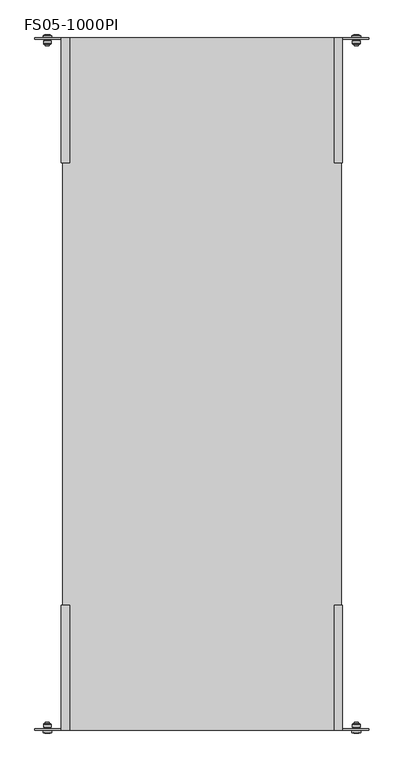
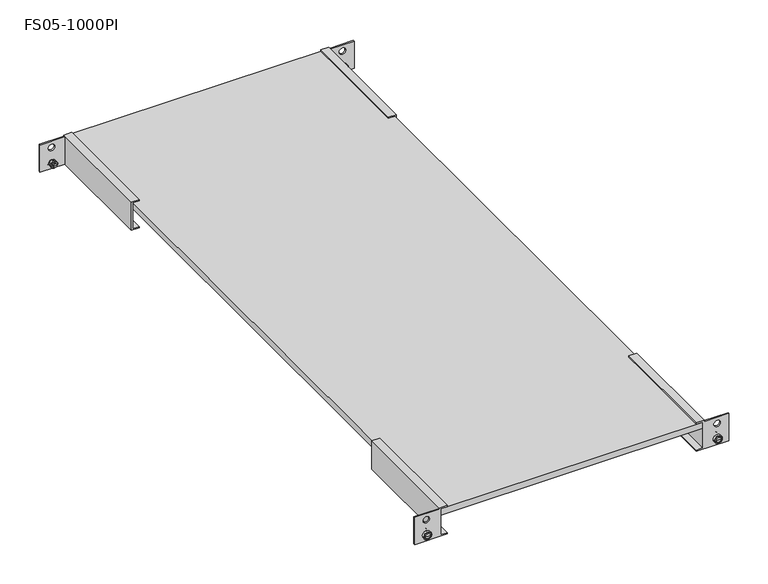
"""IFC4 building model written with IfcOpenShell, lengths in millimetres: proxy geometry, Полки стационарные универсальные : FS05-1000PI."""

from ifc_helpers import new_model, si_unit, point, frame, origin, place, context, project, spatial, polyline, circle_curve, ellipse_curve, trimmed, outline, extrude, source, transform, mapped, element, save
from ifc_brep_helpers import plane_surface, cylinder_surface, revolved_surface, advanced_brep


def fs05_1000pi_1325bcf8(model_context):
    return source(origin(), model_context, "Body", "SolidModel", [
        advanced_brep(
        [(223.4822805, 504.3499926, 10.0), (219.9883481, 504.3499926, 10.0), (226.9762128, 504.3499926, 10.0), (226.4822791, 488.7499968, 10.0), (220.4822818, 488.7499968, 10.0), (223.4822805, 488.7499968, 10.0), (226.4822791, 490.7999942, 10.0), (220.4822818, 490.7999942, 10.0), (227.9855464, 490.7999942, 10.0), (218.9790145, 490.7999942, 10.0), (228.9822767, 491.7967245, 10.0), (217.9822842, 491.7967245, 10.0), (228.9822767, 495.8, 10.0), (217.9822842, 495.8, 10.0), (227.6556322, 498.0, 10.0), (219.3089288, 498.0, 10.0), (227.6556322, 500.0, 10.0), (219.3089288, 500.0, 10.0), (229.732282, 500.0, 10.0), (217.232279, 500.0, 10.0), (229.732282, 503.5000006, 10.0), (217.232279, 503.5000006, 10.0), (228.8604456, 503.5000006, 10.0), (218.1041154, 503.5000006, 10.0)],
        [
            (0, 1),
            (1, 2, circle_curve(frame((223.4822805, 504.3499926, 10.0), z_axis=(0.0, 1.0, 0.0), x_axis=(-1.0, 0.0, 0.0)), 3.4939324)),
            (2, 0),
            (2, 1, circle_curve(frame((223.4822805, 504.3499926, 10.0), z_axis=(0.0, 1.0, 0.0), x_axis=(-1.0, 0.0, 0.0)), 3.4939324)),
            (3, 4, circle_curve(frame((223.4822805, 488.7499968, 10.0), z_axis=(0.0, -1.0, 0.0), x_axis=(-1.0, 0.0, 0.0)), 2.9999986)),
            (4, 5),
            (5, 3),
            (4, 3, circle_curve(frame((223.4822805, 488.7499968, 10.0), z_axis=(0.0, -1.0, 0.0), x_axis=(-1.0, 0.0, 0.0)), 2.9999986)),
            (6, 7, circle_curve(frame((223.4822805, 490.7999942, 10.0), z_axis=(0.0, -1.0, 0.0), x_axis=(-1.0, 0.0, 0.0)), 2.9999986)),
            (7, 4),
            (3, 6),
            (7, 6, circle_curve(frame((223.4822805, 490.7999942, 10.0), z_axis=(0.0, -1.0, 0.0), x_axis=(-1.0, 0.0, 0.0)), 2.9999986)),
            (8, 9, circle_curve(frame((223.4822805, 490.7999942, 10.0), z_axis=(0.0, -1.0, 0.0), x_axis=(-1.0, 0.0, 0.0)), 4.503266)),
            (9, 7),
            (6, 8),
            (9, 8, circle_curve(frame((223.4822805, 490.7999942, 10.0), z_axis=(0.0, -1.0, 0.0), x_axis=(-1.0, 0.0, 0.0)), 4.503266)),
            (10, 11, circle_curve(frame((223.4822805, 491.7967245, 10.0), z_axis=(0.0, -1.0, 0.0), x_axis=(-1.0, 0.0, 0.0)), 5.4999962)),
            (11, 9, circle_curve(frame((218.9790145, 491.7967245, 10.0), z_axis=(0.0, 0.0, 1.0), x_axis=(1.0, 0.0, 0.0)), 0.9967303)),
            (8, 10, circle_curve(frame((227.9855464, 491.7967245, 10.0), z_axis=(0.0, 0.0, 1.0), x_axis=(-1.0, 0.0, 0.0)), 0.9967303)),
            (11, 10, circle_curve(frame((223.4822805, 491.7967245, 10.0), z_axis=(0.0, -1.0, 0.0), x_axis=(-1.0, 0.0, 0.0)), 5.4999962)),
            (12, 13, circle_curve(frame((223.4822805, 495.8, 10.0), z_axis=(0.0, -1.0, 0.0), x_axis=(-1.0, 0.0, 0.0)), 5.4999962)),
            (13, 11),
            (10, 12),
            (13, 12, circle_curve(frame((223.4822805, 495.8, 10.0), z_axis=(0.0, -1.0, 0.0), x_axis=(-1.0, 0.0, 0.0)), 5.4999962)),
            (14, 15, circle_curve(frame((223.4822805, 498.0, 10.0), z_axis=(0.0, -1.0, 0.0), x_axis=(-1.0, 0.0, 0.0)), 4.1733517)),
            (15, 13, circle_curve(frame((217.9822789, 497.3, 10.0), z_axis=(0.0, 0.0, -1.0), x_axis=(1.0, 0.0, 0.0)), 1.5)),
            (12, 14, circle_curve(frame((228.9822821, 497.3, 10.0), z_axis=(0.0, 0.0, -1.0), x_axis=(-1.0, 0.0, 0.0)), 1.5)),
            (15, 14, circle_curve(frame((223.4822805, 498.0, 10.0), z_axis=(0.0, -1.0, 0.0), x_axis=(-1.0, 0.0, 0.0)), 4.1733517)),
            (16, 17, circle_curve(frame((223.4822805, 500.0, 10.0), z_axis=(0.0, -1.0, 0.0), x_axis=(-1.0, 0.0, 0.0)), 4.1733517)),
            (17, 15),
            (14, 16),
            (17, 16, circle_curve(frame((223.4822805, 500.0, 10.0), z_axis=(0.0, -1.0, 0.0), x_axis=(-1.0, 0.0, 0.0)), 4.1733517)),
            (18, 19, circle_curve(frame((223.4822805, 500.0, 10.0), z_axis=(0.0, -1.0, 0.0), x_axis=(-1.0, 0.0, 0.0)), 6.2500015)),
            (19, 17),
            (16, 18),
            (19, 18, circle_curve(frame((223.4822805, 500.0, 10.0), z_axis=(0.0, -1.0, 0.0), x_axis=(-1.0, 0.0, 0.0)), 6.2500015)),
            (20, 21, circle_curve(frame((223.4822805, 503.5000006, 10.0), z_axis=(0.0, -1.0, 0.0), x_axis=(-1.0, 0.0, 0.0)), 6.2500015)),
            (21, 19),
            (18, 20),
            (21, 20, circle_curve(frame((223.4822805, 503.5000006, 10.0), z_axis=(0.0, -1.0, 0.0), x_axis=(-1.0, 0.0, 0.0)), 6.2500015)),
            (22, 23, circle_curve(frame((223.4822805, 503.5000006, 10.0), z_axis=(0.0, -1.0, 0.0), x_axis=(-1.0, 0.0, 0.0)), 5.3781651)),
            (23, 21),
            (20, 22),
            (23, 22, circle_curve(frame((223.4822805, 503.5000006, 10.0), z_axis=(0.0, -1.0, 0.0), x_axis=(-1.0, 0.0, 0.0)), 5.3781651)),
            (1, 23, circle_curve(frame((219.9822789, 501.85, 10.0), z_axis=(0.0, 0.0, 1.0), x_axis=(1.0, 0.0, 0.0)), 2.5)),
            (22, 2, circle_curve(frame((226.9822821, 501.85, 10.0), z_axis=(0.0, 0.0, 1.0), x_axis=(-1.0, 0.0, 0.0)), 2.5)),
        ],
        [
            plane_surface(frame((223.4822805, 504.3499926, 10.0), z_axis=(0.0, 1.0, 0.0), x_axis=(-1.0, 0.0, 0.0))),
            plane_surface(frame((223.4822805, 488.7499968, 10.0), z_axis=(0.0, -1.0, 0.0), x_axis=(-1.0, 0.0, 0.0))),
            cylinder_surface(frame((223.4822805, -2109.0581012, 10.0), z_axis=(0.0, 1.0, 0.0), x_axis=(-1.0, 0.0, 0.0)), 2.9999986),
            plane_surface(frame((223.4822805, 490.7999942, 10.0), z_axis=(0.0, -1.0, 0.0), x_axis=(-1.0, 0.0, 0.0))),
            revolved_surface(trimmed(ellipse_curve(frame((218.9790145, 491.7967245, 10.0), z_axis=(0.0, 0.0, -1.0), x_axis=(1.0, 0.0, 0.0)), 0.9967303, 0.9967303), [point((218.9790145, 490.7999942, 10.0))], [point((217.9822842, 491.7967245, 10.0))], True, "CARTESIAN"), (223.4822805, -2109.0581012, 10.0), (0.0, 1.0, 0.0)),
            cylinder_surface(frame((223.4822805, -2109.0581012, 10.0), z_axis=(0.0, 1.0, 0.0), x_axis=(-1.0, 0.0, 0.0)), 5.4999962),
            revolved_surface(trimmed(ellipse_curve(frame((217.9822789, 497.3, 10.0), z_axis=(0.0, 0.0, 1.0), x_axis=(1.0, 0.0, 0.0)), 1.5, 1.5), [point((217.9822842, 495.8, 10.0))], [point((219.3089288, 498.0, 10.0))], True, "CARTESIAN"), (223.4822805, -2109.0581012, 10.0), (0.0, 1.0, 0.0)),
            cylinder_surface(frame((223.4822805, -2109.0581012, 10.0), z_axis=(0.0, 1.0, 0.0), x_axis=(-1.0, 0.0, 0.0)), 4.1733517),
            plane_surface(frame((223.4822805, 500.0, 10.0), z_axis=(0.0, -1.0, 0.0), x_axis=(-1.0, 0.0, 0.0))),
            cylinder_surface(frame((223.4822805, -2109.0581012, 10.0), z_axis=(0.0, 1.0, 0.0), x_axis=(-1.0, 0.0, 0.0)), 6.2500015),
            plane_surface(frame((223.4822805, 503.5000006, 10.0), z_axis=(0.0, 1.0, 0.0), x_axis=(-1.0, 0.0, 0.0))),
            revolved_surface(trimmed(ellipse_curve(frame((219.9822789, 501.85, 10.0), z_axis=(0.0, 0.0, -1.0), x_axis=(1.0, 0.0, 0.0)), 2.5, 2.5), [point((218.1041154, 503.5000006, 10.0))], [point((219.9883481, 504.3499926, 10.0))], True, "CARTESIAN"), (223.4822805, -2109.0581012, 10.0), (0.0, 1.0, 0.0)),
        ],
        [
            (0, [[1, 2, 3]]),
            (0, [[-3, 4, -1]]),
            (1, [[5, 6, 7]]),
            (1, [[8, -7, -6]]),
            (2, [[9, 10, -5, 11]]),
            (2, [[12, -11, -8, -10]]),
            (3, [[13, 14, -9, 15]]),
            (3, [[16, -15, -12, -14]]),
            (4, [[17, 18, -13, 19]]),
            (4, [[20, -19, -16, -18]]),
            (5, [[21, 22, -17, 23]]),
            (5, [[24, -23, -20, -22]]),
            (6, [[25, 26, -21, 27]]),
            (6, [[28, -27, -24, -26]]),
            (7, [[29, 30, -25, 31]]),
            (7, [[32, -31, -28, -30]]),
            (8, [[33, 34, -29, 35]]),
            (8, [[36, -35, -32, -34]]),
            (9, [[37, 38, -33, 39]]),
            (9, [[40, -39, -36, -38]]),
            (10, [[41, 42, -37, 43]]),
            (10, [[44, -43, -40, -42]]),
            (11, [[-2, 45, -41, 46]]),
            (11, [[-4, -46, -44, -45]]),
        ],
    ),
        advanced_brep(
        [(-223.4822805, 504.3499926, 10.0), (-226.9762128, 504.3499926, 10.0), (-219.9883481, 504.3499926, 10.0), (-220.4822818, 488.7499968, 10.0), (-226.4822791, 488.7499968, 10.0), (-223.4822805, 488.7499968, 10.0), (-220.4822818, 490.7999942, 10.0), (-226.4822791, 490.7999942, 10.0), (-218.9790145, 490.7999942, 10.0), (-227.9855464, 490.7999942, 10.0), (-217.9822842, 491.7967245, 10.0), (-228.9822767, 491.7967245, 10.0), (-217.9822842, 495.8, 10.0), (-228.9822767, 495.8, 10.0), (-219.3089288, 498.0, 10.0), (-227.6556322, 498.0, 10.0), (-219.3089288, 500.0, 10.0), (-227.6556322, 500.0, 10.0), (-217.232279, 500.0, 10.0), (-229.732282, 500.0, 10.0), (-217.232279, 503.5000006, 10.0), (-229.732282, 503.5000006, 10.0), (-218.1041154, 503.5000006, 10.0), (-228.8604456, 503.5000006, 10.0)],
        [
            (0, 1),
            (1, 2, circle_curve(frame((-223.4822805, 504.3499926, 10.0), z_axis=(0.0, 1.0, 0.0), x_axis=(-1.0, 0.0, 0.0)), 3.4939324)),
            (2, 0),
            (2, 1, circle_curve(frame((-223.4822805, 504.3499926, 10.0), z_axis=(0.0, 1.0, 0.0), x_axis=(-1.0, 0.0, 0.0)), 3.4939324)),
            (3, 4, circle_curve(frame((-223.4822805, 488.7499968, 10.0), z_axis=(0.0, -1.0, 0.0), x_axis=(-1.0, 0.0, 0.0)), 2.9999986)),
            (4, 5),
            (5, 3),
            (4, 3, circle_curve(frame((-223.4822805, 488.7499968, 10.0), z_axis=(0.0, -1.0, 0.0), x_axis=(-1.0, 0.0, 0.0)), 2.9999986)),
            (6, 7, circle_curve(frame((-223.4822805, 490.7999942, 10.0), z_axis=(0.0, -1.0, 0.0), x_axis=(-1.0, 0.0, 0.0)), 2.9999986)),
            (7, 4),
            (3, 6),
            (7, 6, circle_curve(frame((-223.4822805, 490.7999942, 10.0), z_axis=(0.0, -1.0, 0.0), x_axis=(-1.0, 0.0, 0.0)), 2.9999986)),
            (8, 9, circle_curve(frame((-223.4822805, 490.7999942, 10.0), z_axis=(0.0, -1.0, 0.0), x_axis=(-1.0, 0.0, 0.0)), 4.503266)),
            (9, 7),
            (6, 8),
            (9, 8, circle_curve(frame((-223.4822805, 490.7999942, 10.0), z_axis=(0.0, -1.0, 0.0), x_axis=(-1.0, 0.0, 0.0)), 4.503266)),
            (10, 11, circle_curve(frame((-223.4822805, 491.7967245, 10.0), z_axis=(0.0, -1.0, 0.0), x_axis=(-1.0, 0.0, 0.0)), 5.4999962)),
            (11, 9, circle_curve(frame((-227.9855464, 491.7967245, 10.0), z_axis=(0.0, 0.0, 1.0), x_axis=(1.0, 0.0, 0.0)), 0.9967303)),
            (8, 10, circle_curve(frame((-218.9790145, 491.7967245, 10.0), z_axis=(0.0, 0.0, 1.0), x_axis=(-1.0, 0.0, 0.0)), 0.9967303)),
            (11, 10, circle_curve(frame((-223.4822805, 491.7967245, 10.0), z_axis=(0.0, -1.0, 0.0), x_axis=(-1.0, 0.0, 0.0)), 5.4999962)),
            (12, 13, circle_curve(frame((-223.4822805, 495.8, 10.0), z_axis=(0.0, -1.0, 0.0), x_axis=(-1.0, 0.0, 0.0)), 5.4999962)),
            (13, 11),
            (10, 12),
            (13, 12, circle_curve(frame((-223.4822805, 495.8, 10.0), z_axis=(0.0, -1.0, 0.0), x_axis=(-1.0, 0.0, 0.0)), 5.4999962)),
            (14, 15, circle_curve(frame((-223.4822805, 498.0, 10.0), z_axis=(0.0, -1.0, 0.0), x_axis=(-1.0, 0.0, 0.0)), 4.1733517)),
            (15, 13, circle_curve(frame((-228.9822821, 497.3, 10.0), z_axis=(0.0, 0.0, -1.0), x_axis=(1.0, 0.0, 0.0)), 1.5)),
            (12, 14, circle_curve(frame((-217.9822789, 497.3, 10.0), z_axis=(0.0, 0.0, -1.0), x_axis=(-1.0, 0.0, 0.0)), 1.5)),
            (15, 14, circle_curve(frame((-223.4822805, 498.0, 10.0), z_axis=(0.0, -1.0, 0.0), x_axis=(-1.0, 0.0, 0.0)), 4.1733517)),
            (16, 17, circle_curve(frame((-223.4822805, 500.0, 10.0), z_axis=(0.0, -1.0, 0.0), x_axis=(-1.0, 0.0, 0.0)), 4.1733517)),
            (17, 15),
            (14, 16),
            (17, 16, circle_curve(frame((-223.4822805, 500.0, 10.0), z_axis=(0.0, -1.0, 0.0), x_axis=(-1.0, 0.0, 0.0)), 4.1733517)),
            (18, 19, circle_curve(frame((-223.4822805, 500.0, 10.0), z_axis=(0.0, -1.0, 0.0), x_axis=(-1.0, 0.0, 0.0)), 6.2500015)),
            (19, 17),
            (16, 18),
            (19, 18, circle_curve(frame((-223.4822805, 500.0, 10.0), z_axis=(0.0, -1.0, 0.0), x_axis=(-1.0, 0.0, 0.0)), 6.2500015)),
            (20, 21, circle_curve(frame((-223.4822805, 503.5000006, 10.0), z_axis=(0.0, -1.0, 0.0), x_axis=(-1.0, 0.0, 0.0)), 6.2500015)),
            (21, 19),
            (18, 20),
            (21, 20, circle_curve(frame((-223.4822805, 503.5000006, 10.0), z_axis=(0.0, -1.0, 0.0), x_axis=(-1.0, 0.0, 0.0)), 6.2500015)),
            (22, 23, circle_curve(frame((-223.4822805, 503.5000006, 10.0), z_axis=(0.0, -1.0, 0.0), x_axis=(-1.0, 0.0, 0.0)), 5.3781651)),
            (23, 21),
            (20, 22),
            (23, 22, circle_curve(frame((-223.4822805, 503.5000006, 10.0), z_axis=(0.0, -1.0, 0.0), x_axis=(-1.0, 0.0, 0.0)), 5.3781651)),
            (1, 23, circle_curve(frame((-226.9822821, 501.85, 10.0), z_axis=(0.0, 0.0, 1.0), x_axis=(1.0, 0.0, 0.0)), 2.5)),
            (22, 2, circle_curve(frame((-219.9822789, 501.85, 10.0), z_axis=(0.0, 0.0, 1.0), x_axis=(-1.0, 0.0, 0.0)), 2.5)),
        ],
        [
            plane_surface(frame((-223.4822805, 504.3499926, 10.0), z_axis=(0.0, 1.0, 0.0), x_axis=(-1.0, 0.0, 0.0))),
            plane_surface(frame((-223.4822805, 488.7499968, 10.0), z_axis=(0.0, -1.0, 0.0), x_axis=(-1.0, 0.0, 0.0))),
            cylinder_surface(frame((-223.4822805, -2109.0581012, 10.0), z_axis=(0.0, 1.0, 0.0), x_axis=(-1.0, 0.0, 0.0)), 2.9999986),
            plane_surface(frame((-223.4822805, 490.7999942, 10.0), z_axis=(0.0, -1.0, 0.0), x_axis=(-1.0, 0.0, 0.0))),
            revolved_surface(trimmed(ellipse_curve(frame((-227.9855464, 491.7967245, 10.0), z_axis=(0.0, 0.0, -1.0), x_axis=(1.0, 0.0, 0.0)), 0.9967303, 0.9967303), [point((-227.9855464, 490.7999942, 10.0))], [point((-228.9822767, 491.7967245, 10.0))], True, "CARTESIAN"), (-223.4822805, -2109.0581012, 10.0), (0.0, 1.0, 0.0)),
            cylinder_surface(frame((-223.4822805, -2109.0581012, 10.0), z_axis=(0.0, 1.0, 0.0), x_axis=(-1.0, 0.0, 0.0)), 5.4999962),
            revolved_surface(trimmed(ellipse_curve(frame((-228.9822821, 497.3, 10.0), z_axis=(0.0, 0.0, 1.0), x_axis=(1.0, 0.0, 0.0)), 1.5, 1.5), [point((-228.9822767, 495.8, 10.0))], [point((-227.6556322, 498.0, 10.0))], True, "CARTESIAN"), (-223.4822805, -2109.0581012, 10.0), (0.0, 1.0, 0.0)),
            cylinder_surface(frame((-223.4822805, -2109.0581012, 10.0), z_axis=(0.0, 1.0, 0.0), x_axis=(-1.0, 0.0, 0.0)), 4.1733517),
            plane_surface(frame((-223.4822805, 500.0, 10.0), z_axis=(0.0, -1.0, 0.0), x_axis=(-1.0, 0.0, 0.0))),
            cylinder_surface(frame((-223.4822805, -2109.0581012, 10.0), z_axis=(0.0, 1.0, 0.0), x_axis=(-1.0, 0.0, 0.0)), 6.2500015),
            plane_surface(frame((-223.4822805, 503.5000006, 10.0), z_axis=(0.0, 1.0, 0.0), x_axis=(-1.0, 0.0, 0.0))),
            revolved_surface(trimmed(ellipse_curve(frame((-226.9822821, 501.85, 10.0), z_axis=(0.0, 0.0, -1.0), x_axis=(1.0, 0.0, 0.0)), 2.5, 2.5), [point((-228.8604456, 503.5000006, 10.0))], [point((-226.9762128, 504.3499926, 10.0))], True, "CARTESIAN"), (-223.4822805, -2109.0581012, 10.0), (0.0, 1.0, 0.0)),
        ],
        [
            (0, [[1, 2, 3]]),
            (0, [[-3, 4, -1]]),
            (1, [[5, 6, 7]]),
            (1, [[8, -7, -6]]),
            (2, [[9, 10, -5, 11]]),
            (2, [[12, -11, -8, -10]]),
            (3, [[13, 14, -9, 15]]),
            (3, [[16, -15, -12, -14]]),
            (4, [[17, 18, -13, 19]]),
            (4, [[20, -19, -16, -18]]),
            (5, [[21, 22, -17, 23]]),
            (5, [[24, -23, -20, -22]]),
            (6, [[25, 26, -21, 27]]),
            (6, [[28, -27, -24, -26]]),
            (7, [[29, 30, -25, 31]]),
            (7, [[32, -31, -28, -30]]),
            (8, [[33, 34, -29, 35]]),
            (8, [[36, -35, -32, -34]]),
            (9, [[37, 38, -33, 39]]),
            (9, [[40, -39, -36, -38]]),
            (10, [[41, 42, -37, 43]]),
            (10, [[44, -43, -40, -42]]),
            (11, [[-2, 45, -41, 46]]),
            (11, [[-4, -46, -44, -45]]),
        ],
    ),
        advanced_brep(
        [(-223.4822805, -504.3499926, 10.0), (-219.9883481, -504.3499926, 10.0), (-226.9762128, -504.3499926, 10.0), (-226.4822791, -488.7499968, 10.0), (-220.4822818, -488.7499968, 10.0), (-223.4822805, -488.7499968, 10.0), (-226.4822791, -490.7999942, 10.0), (-220.4822818, -490.7999942, 10.0), (-227.9855464, -490.7999942, 10.0), (-218.9790145, -490.7999942, 10.0), (-228.9822767, -491.7967245, 10.0), (-217.9822842, -491.7967245, 10.0), (-228.9822767, -495.8, 10.0), (-217.9822842, -495.8, 10.0), (-227.6556322, -498.0, 10.0), (-219.3089288, -498.0, 10.0), (-227.6556322, -500.0, 10.0), (-219.3089288, -500.0, 10.0), (-229.732282, -500.0, 10.0), (-217.232279, -500.0, 10.0), (-229.732282, -503.5000006, 10.0), (-217.232279, -503.5000006, 10.0), (-228.8604456, -503.5000006, 10.0), (-218.1041154, -503.5000006, 10.0)],
        [
            (0, 1),
            (1, 2, circle_curve(frame((-223.4822805, -504.3499926, 10.0), z_axis=(0.0, -1.0, 0.0), x_axis=(1.0, 0.0, 0.0)), 3.4939324)),
            (2, 0),
            (2, 1, circle_curve(frame((-223.4822805, -504.3499926, 10.0), z_axis=(0.0, -1.0, 0.0), x_axis=(1.0, 0.0, 0.0)), 3.4939324)),
            (3, 4, circle_curve(frame((-223.4822805, -488.7499968, 10.0), z_axis=(0.0, 1.0, 0.0), x_axis=(1.0, 0.0, 0.0)), 2.9999986)),
            (4, 5),
            (5, 3),
            (4, 3, circle_curve(frame((-223.4822805, -488.7499968, 10.0), z_axis=(0.0, 1.0, 0.0), x_axis=(1.0, 0.0, 0.0)), 2.9999986)),
            (6, 7, circle_curve(frame((-223.4822805, -490.7999942, 10.0), z_axis=(0.0, 1.0, 0.0), x_axis=(1.0, 0.0, 0.0)), 2.9999986)),
            (7, 4),
            (3, 6),
            (7, 6, circle_curve(frame((-223.4822805, -490.7999942, 10.0), z_axis=(0.0, 1.0, 0.0), x_axis=(1.0, 0.0, 0.0)), 2.9999986)),
            (8, 9, circle_curve(frame((-223.4822805, -490.7999942, 10.0), z_axis=(0.0, 1.0, 0.0), x_axis=(1.0, 0.0, 0.0)), 4.503266)),
            (9, 7),
            (6, 8),
            (9, 8, circle_curve(frame((-223.4822805, -490.7999942, 10.0), z_axis=(0.0, 1.0, 0.0), x_axis=(1.0, 0.0, 0.0)), 4.503266)),
            (10, 11, circle_curve(frame((-223.4822805, -491.7967245, 10.0), z_axis=(0.0, 1.0, 0.0), x_axis=(1.0, 0.0, 0.0)), 5.4999962)),
            (11, 9, circle_curve(frame((-218.9790145, -491.7967245, 10.0), z_axis=(0.0, 0.0, 1.0), x_axis=(-1.0, 0.0, 0.0)), 0.9967303)),
            (8, 10, circle_curve(frame((-227.9855464, -491.7967245, 10.0), z_axis=(0.0, 0.0, 1.0), x_axis=(1.0, 0.0, 0.0)), 0.9967303)),
            (11, 10, circle_curve(frame((-223.4822805, -491.7967245, 10.0), z_axis=(0.0, 1.0, 0.0), x_axis=(1.0, 0.0, 0.0)), 5.4999962)),
            (12, 13, circle_curve(frame((-223.4822805, -495.8, 10.0), z_axis=(0.0, 1.0, 0.0), x_axis=(1.0, 0.0, 0.0)), 5.4999962)),
            (13, 11),
            (10, 12),
            (13, 12, circle_curve(frame((-223.4822805, -495.8, 10.0), z_axis=(0.0, 1.0, 0.0), x_axis=(1.0, 0.0, 0.0)), 5.4999962)),
            (14, 15, circle_curve(frame((-223.4822805, -498.0, 10.0), z_axis=(0.0, 1.0, 0.0), x_axis=(1.0, 0.0, 0.0)), 4.1733517)),
            (15, 13, circle_curve(frame((-217.9822789, -497.3, 10.0), z_axis=(0.0, 0.0, -1.0), x_axis=(-1.0, 0.0, 0.0)), 1.5)),
            (12, 14, circle_curve(frame((-228.9822821, -497.3, 10.0), z_axis=(0.0, 0.0, -1.0), x_axis=(1.0, 0.0, 0.0)), 1.5)),
            (15, 14, circle_curve(frame((-223.4822805, -498.0, 10.0), z_axis=(0.0, 1.0, 0.0), x_axis=(1.0, 0.0, 0.0)), 4.1733517)),
            (16, 17, circle_curve(frame((-223.4822805, -500.0, 10.0), z_axis=(0.0, 1.0, 0.0), x_axis=(1.0, 0.0, 0.0)), 4.1733517)),
            (17, 15),
            (14, 16),
            (17, 16, circle_curve(frame((-223.4822805, -500.0, 10.0), z_axis=(0.0, 1.0, 0.0), x_axis=(1.0, 0.0, 0.0)), 4.1733517)),
            (18, 19, circle_curve(frame((-223.4822805, -500.0, 10.0), z_axis=(0.0, 1.0, 0.0), x_axis=(1.0, 0.0, 0.0)), 6.2500015)),
            (19, 17),
            (16, 18),
            (19, 18, circle_curve(frame((-223.4822805, -500.0, 10.0), z_axis=(0.0, 1.0, 0.0), x_axis=(1.0, 0.0, 0.0)), 6.2500015)),
            (20, 21, circle_curve(frame((-223.4822805, -503.5000006, 10.0), z_axis=(0.0, 1.0, 0.0), x_axis=(1.0, 0.0, 0.0)), 6.2500015)),
            (21, 19),
            (18, 20),
            (21, 20, circle_curve(frame((-223.4822805, -503.5000006, 10.0), z_axis=(0.0, 1.0, 0.0), x_axis=(1.0, 0.0, 0.0)), 6.2500015)),
            (22, 23, circle_curve(frame((-223.4822805, -503.5000006, 10.0), z_axis=(0.0, 1.0, 0.0), x_axis=(1.0, 0.0, 0.0)), 5.3781651)),
            (23, 21),
            (20, 22),
            (23, 22, circle_curve(frame((-223.4822805, -503.5000006, 10.0), z_axis=(0.0, 1.0, 0.0), x_axis=(1.0, 0.0, 0.0)), 5.3781651)),
            (1, 23, circle_curve(frame((-219.9822789, -501.85, 10.0), z_axis=(0.0, 0.0, 1.0), x_axis=(-1.0, 0.0, 0.0)), 2.5)),
            (22, 2, circle_curve(frame((-226.9822821, -501.85, 10.0), z_axis=(0.0, 0.0, 1.0), x_axis=(1.0, 0.0, 0.0)), 2.5)),
        ],
        [
            plane_surface(frame((-223.4822805, -504.3499926, 10.0), z_axis=(0.0, -1.0, 0.0), x_axis=(1.0, 0.0, 0.0))),
            plane_surface(frame((-223.4822805, -488.7499968, 10.0), z_axis=(0.0, 1.0, 0.0), x_axis=(1.0, 0.0, 0.0))),
            cylinder_surface(frame((-223.4822805, 2109.0581012, 10.0), z_axis=(0.0, -1.0, 0.0), x_axis=(1.0, 0.0, 0.0)), 2.9999986),
            plane_surface(frame((-223.4822805, -490.7999942, 10.0), z_axis=(0.0, 1.0, 0.0), x_axis=(1.0, 0.0, 0.0))),
            revolved_surface(trimmed(ellipse_curve(frame((-218.9790145, -491.7967245, 10.0), z_axis=(0.0, 0.0, -1.0), x_axis=(-1.0, 0.0, 0.0)), 0.9967303, 0.9967303), [point((-218.9790145, -490.7999942, 10.0))], [point((-217.9822842, -491.7967245, 10.0))], True, "CARTESIAN"), (-223.4822805, 2109.0581012, 10.0), (0.0, -1.0, 0.0)),
            cylinder_surface(frame((-223.4822805, 2109.0581012, 10.0), z_axis=(0.0, -1.0, 0.0), x_axis=(1.0, 0.0, 0.0)), 5.4999962),
            revolved_surface(trimmed(ellipse_curve(frame((-217.9822789, -497.3, 10.0), z_axis=(0.0, 0.0, 1.0), x_axis=(-1.0, 0.0, 0.0)), 1.5, 1.5), [point((-217.9822842, -495.8, 10.0))], [point((-219.3089288, -498.0, 10.0))], True, "CARTESIAN"), (-223.4822805, 2109.0581012, 10.0), (0.0, -1.0, 0.0)),
            cylinder_surface(frame((-223.4822805, 2109.0581012, 10.0), z_axis=(0.0, -1.0, 0.0), x_axis=(1.0, 0.0, 0.0)), 4.1733517),
            plane_surface(frame((-223.4822805, -500.0, 10.0), z_axis=(0.0, 1.0, 0.0), x_axis=(1.0, 0.0, 0.0))),
            cylinder_surface(frame((-223.4822805, 2109.0581012, 10.0), z_axis=(0.0, -1.0, 0.0), x_axis=(1.0, 0.0, 0.0)), 6.2500015),
            plane_surface(frame((-223.4822805, -503.5000006, 10.0), z_axis=(0.0, -1.0, 0.0), x_axis=(1.0, 0.0, 0.0))),
            revolved_surface(trimmed(ellipse_curve(frame((-219.9822789, -501.85, 10.0), z_axis=(0.0, 0.0, -1.0), x_axis=(-1.0, 0.0, 0.0)), 2.5, 2.5), [point((-218.1041154, -503.5000006, 10.0))], [point((-219.9883481, -504.3499926, 10.0))], True, "CARTESIAN"), (-223.4822805, 2109.0581012, 10.0), (0.0, -1.0, 0.0)),
        ],
        [
            (0, [[1, 2, 3]]),
            (0, [[-3, 4, -1]]),
            (1, [[5, 6, 7]]),
            (1, [[8, -7, -6]]),
            (2, [[9, 10, -5, 11]]),
            (2, [[12, -11, -8, -10]]),
            (3, [[13, 14, -9, 15]]),
            (3, [[16, -15, -12, -14]]),
            (4, [[17, 18, -13, 19]]),
            (4, [[20, -19, -16, -18]]),
            (5, [[21, 22, -17, 23]]),
            (5, [[24, -23, -20, -22]]),
            (6, [[25, 26, -21, 27]]),
            (6, [[28, -27, -24, -26]]),
            (7, [[29, 30, -25, 31]]),
            (7, [[32, -31, -28, -30]]),
            (8, [[33, 34, -29, 35]]),
            (8, [[36, -35, -32, -34]]),
            (9, [[37, 38, -33, 39]]),
            (9, [[40, -39, -36, -38]]),
            (10, [[41, 42, -37, 43]]),
            (10, [[44, -43, -40, -42]]),
            (11, [[-2, 45, -41, 46]]),
            (11, [[-4, -46, -44, -45]]),
        ],
    ),
        advanced_brep(
        [(223.4822805, -504.3499926, 10.0), (226.9762128, -504.3499926, 10.0), (219.9883481, -504.3499926, 10.0), (220.4822818, -488.7499968, 10.0), (226.4822791, -488.7499968, 10.0), (223.4822805, -488.7499968, 10.0), (220.4822818, -490.7999942, 10.0), (226.4822791, -490.7999942, 10.0), (218.9790145, -490.7999942, 10.0), (227.9855464, -490.7999942, 10.0), (217.9822842, -491.7967245, 10.0), (228.9822767, -491.7967245, 10.0), (217.9822842, -495.8, 10.0), (228.9822767, -495.8, 10.0), (219.3089288, -498.0, 10.0), (227.6556322, -498.0, 10.0), (219.3089288, -500.0, 10.0), (227.6556322, -500.0, 10.0), (217.232279, -500.0, 10.0), (229.732282, -500.0, 10.0), (217.232279, -503.5000006, 10.0), (229.732282, -503.5000006, 10.0), (218.1041154, -503.5000006, 10.0), (228.8604456, -503.5000006, 10.0)],
        [
            (0, 1),
            (1, 2, circle_curve(frame((223.4822805, -504.3499926, 10.0), z_axis=(0.0, -1.0, 0.0), x_axis=(1.0, 0.0, 0.0)), 3.4939324)),
            (2, 0),
            (2, 1, circle_curve(frame((223.4822805, -504.3499926, 10.0), z_axis=(0.0, -1.0, 0.0), x_axis=(1.0, 0.0, 0.0)), 3.4939324)),
            (3, 4, circle_curve(frame((223.4822805, -488.7499968, 10.0), z_axis=(0.0, 1.0, 0.0), x_axis=(1.0, 0.0, 0.0)), 2.9999986)),
            (4, 5),
            (5, 3),
            (4, 3, circle_curve(frame((223.4822805, -488.7499968, 10.0), z_axis=(0.0, 1.0, 0.0), x_axis=(1.0, 0.0, 0.0)), 2.9999986)),
            (6, 7, circle_curve(frame((223.4822805, -490.7999942, 10.0), z_axis=(0.0, 1.0, 0.0), x_axis=(1.0, 0.0, 0.0)), 2.9999986)),
            (7, 4),
            (3, 6),
            (7, 6, circle_curve(frame((223.4822805, -490.7999942, 10.0), z_axis=(0.0, 1.0, 0.0), x_axis=(1.0, 0.0, 0.0)), 2.9999986)),
            (8, 9, circle_curve(frame((223.4822805, -490.7999942, 10.0), z_axis=(0.0, 1.0, 0.0), x_axis=(1.0, 0.0, 0.0)), 4.503266)),
            (9, 7),
            (6, 8),
            (9, 8, circle_curve(frame((223.4822805, -490.7999942, 10.0), z_axis=(0.0, 1.0, 0.0), x_axis=(1.0, 0.0, 0.0)), 4.503266)),
            (10, 11, circle_curve(frame((223.4822805, -491.7967245, 10.0), z_axis=(0.0, 1.0, 0.0), x_axis=(1.0, 0.0, 0.0)), 5.4999962)),
            (11, 9, circle_curve(frame((227.9855464, -491.7967245, 10.0), z_axis=(0.0, 0.0, 1.0), x_axis=(-1.0, 0.0, 0.0)), 0.9967303)),
            (8, 10, circle_curve(frame((218.9790145, -491.7967245, 10.0), z_axis=(0.0, 0.0, 1.0), x_axis=(1.0, 0.0, 0.0)), 0.9967303)),
            (11, 10, circle_curve(frame((223.4822805, -491.7967245, 10.0), z_axis=(0.0, 1.0, 0.0), x_axis=(1.0, 0.0, 0.0)), 5.4999962)),
            (12, 13, circle_curve(frame((223.4822805, -495.8, 10.0), z_axis=(0.0, 1.0, 0.0), x_axis=(1.0, 0.0, 0.0)), 5.4999962)),
            (13, 11),
            (10, 12),
            (13, 12, circle_curve(frame((223.4822805, -495.8, 10.0), z_axis=(0.0, 1.0, 0.0), x_axis=(1.0, 0.0, 0.0)), 5.4999962)),
            (14, 15, circle_curve(frame((223.4822805, -498.0, 10.0), z_axis=(0.0, 1.0, 0.0), x_axis=(1.0, 0.0, 0.0)), 4.1733517)),
            (15, 13, circle_curve(frame((228.9822821, -497.3, 10.0), z_axis=(0.0, 0.0, -1.0), x_axis=(-1.0, 0.0, 0.0)), 1.5)),
            (12, 14, circle_curve(frame((217.9822789, -497.3, 10.0), z_axis=(0.0, 0.0, -1.0), x_axis=(1.0, 0.0, 0.0)), 1.5)),
            (15, 14, circle_curve(frame((223.4822805, -498.0, 10.0), z_axis=(0.0, 1.0, 0.0), x_axis=(1.0, 0.0, 0.0)), 4.1733517)),
            (16, 17, circle_curve(frame((223.4822805, -500.0, 10.0), z_axis=(0.0, 1.0, 0.0), x_axis=(1.0, 0.0, 0.0)), 4.1733517)),
            (17, 15),
            (14, 16),
            (17, 16, circle_curve(frame((223.4822805, -500.0, 10.0), z_axis=(0.0, 1.0, 0.0), x_axis=(1.0, 0.0, 0.0)), 4.1733517)),
            (18, 19, circle_curve(frame((223.4822805, -500.0, 10.0), z_axis=(0.0, 1.0, 0.0), x_axis=(1.0, 0.0, 0.0)), 6.2500015)),
            (19, 17),
            (16, 18),
            (19, 18, circle_curve(frame((223.4822805, -500.0, 10.0), z_axis=(0.0, 1.0, 0.0), x_axis=(1.0, 0.0, 0.0)), 6.2500015)),
            (20, 21, circle_curve(frame((223.4822805, -503.5000006, 10.0), z_axis=(0.0, 1.0, 0.0), x_axis=(1.0, 0.0, 0.0)), 6.2500015)),
            (21, 19),
            (18, 20),
            (21, 20, circle_curve(frame((223.4822805, -503.5000006, 10.0), z_axis=(0.0, 1.0, 0.0), x_axis=(1.0, 0.0, 0.0)), 6.2500015)),
            (22, 23, circle_curve(frame((223.4822805, -503.5000006, 10.0), z_axis=(0.0, 1.0, 0.0), x_axis=(1.0, 0.0, 0.0)), 5.3781651)),
            (23, 21),
            (20, 22),
            (23, 22, circle_curve(frame((223.4822805, -503.5000006, 10.0), z_axis=(0.0, 1.0, 0.0), x_axis=(1.0, 0.0, 0.0)), 5.3781651)),
            (1, 23, circle_curve(frame((226.9822821, -501.85, 10.0), z_axis=(0.0, 0.0, 1.0), x_axis=(-1.0, 0.0, 0.0)), 2.5)),
            (22, 2, circle_curve(frame((219.9822789, -501.85, 10.0), z_axis=(0.0, 0.0, 1.0), x_axis=(1.0, 0.0, 0.0)), 2.5)),
        ],
        [
            plane_surface(frame((223.4822805, -504.3499926, 10.0), z_axis=(0.0, -1.0, 0.0), x_axis=(1.0, 0.0, 0.0))),
            plane_surface(frame((223.4822805, -488.7499968, 10.0), z_axis=(0.0, 1.0, 0.0), x_axis=(1.0, 0.0, 0.0))),
            cylinder_surface(frame((223.4822805, 2109.0581012, 10.0), z_axis=(0.0, -1.0, 0.0), x_axis=(1.0, 0.0, 0.0)), 2.9999986),
            plane_surface(frame((223.4822805, -490.7999942, 10.0), z_axis=(0.0, 1.0, 0.0), x_axis=(1.0, 0.0, 0.0))),
            revolved_surface(trimmed(ellipse_curve(frame((227.9855464, -491.7967245, 10.0), z_axis=(0.0, 0.0, -1.0), x_axis=(-1.0, 0.0, 0.0)), 0.9967303, 0.9967303), [point((227.9855464, -490.7999942, 10.0))], [point((228.9822767, -491.7967245, 10.0))], True, "CARTESIAN"), (223.4822805, 2109.0581012, 10.0), (0.0, -1.0, 0.0)),
            cylinder_surface(frame((223.4822805, 2109.0581012, 10.0), z_axis=(0.0, -1.0, 0.0), x_axis=(1.0, 0.0, 0.0)), 5.4999962),
            revolved_surface(trimmed(ellipse_curve(frame((228.9822821, -497.3, 10.0), z_axis=(0.0, 0.0, 1.0), x_axis=(-1.0, 0.0, 0.0)), 1.5, 1.5), [point((228.9822767, -495.8, 10.0))], [point((227.6556322, -498.0, 10.0))], True, "CARTESIAN"), (223.4822805, 2109.0581012, 10.0), (0.0, -1.0, 0.0)),
            cylinder_surface(frame((223.4822805, 2109.0581012, 10.0), z_axis=(0.0, -1.0, 0.0), x_axis=(1.0, 0.0, 0.0)), 4.1733517),
            plane_surface(frame((223.4822805, -500.0, 10.0), z_axis=(0.0, 1.0, 0.0), x_axis=(1.0, 0.0, 0.0))),
            cylinder_surface(frame((223.4822805, 2109.0581012, 10.0), z_axis=(0.0, -1.0, 0.0), x_axis=(1.0, 0.0, 0.0)), 6.2500015),
            plane_surface(frame((223.4822805, -503.5000006, 10.0), z_axis=(0.0, -1.0, 0.0), x_axis=(1.0, 0.0, 0.0))),
            revolved_surface(trimmed(ellipse_curve(frame((226.9822821, -501.85, 10.0), z_axis=(0.0, 0.0, -1.0), x_axis=(-1.0, 0.0, 0.0)), 2.5, 2.5), [point((228.8604456, -503.5000006, 10.0))], [point((226.9762128, -504.3499926, 10.0))], True, "CARTESIAN"), (223.4822805, 2109.0581012, 10.0), (0.0, -1.0, 0.0)),
        ],
        [
            (0, [[1, 2, 3]]),
            (0, [[-3, 4, -1]]),
            (1, [[5, 6, 7]]),
            (1, [[8, -7, -6]]),
            (2, [[9, 10, -5, 11]]),
            (2, [[12, -11, -8, -10]]),
            (3, [[13, 14, -9, 15]]),
            (3, [[16, -15, -12, -14]]),
            (4, [[17, 18, -13, 19]]),
            (4, [[20, -19, -16, -18]]),
            (5, [[21, 22, -17, 23]]),
            (5, [[24, -23, -20, -22]]),
            (6, [[25, 26, -21, 27]]),
            (6, [[28, -27, -24, -26]]),
            (7, [[29, 30, -25, 31]]),
            (7, [[32, -31, -28, -30]]),
            (8, [[33, 34, -29, 35]]),
            (8, [[36, -35, -32, -34]]),
            (9, [[37, 38, -33, 39]]),
            (9, [[40, -39, -36, -38]]),
            (10, [[41, 42, -37, 43]]),
            (10, [[44, -43, -40, -42]]),
            (11, [[-2, 45, -41, 46]]),
            (11, [[-4, -46, -44, -45]]),
        ],
    ),
        advanced_brep(
        [(-191.5, -500.0, 44.0), (-191.5, -500.0, 46.0), (-203.5, -500.0, 46.0), (-203.5, -500.0, 44.0), (-241.5, -500.0, 44.0), (-241.5, -500.0, 0.0), (-191.5, -500.0, 0.0), (-191.5, -500.0, 2.0), (-201.5, -500.0, 2.0), (-201.5, -500.0, 44.0), (-218.6086696, -500.0, 34.0), (-228.6086696, -500.0, 34.0), (-191.5, -320.0, 44.0), (-201.5, -320.0, 44.0), (-201.5, -320.0, 2.0), (-191.5, -320.0, 2.0), (-191.5, -320.0, 0.0), (-203.5, -320.0, 0.0), (-203.5, -320.0, 46.0), (-191.5, -320.0, 46.0), (-203.5, -498.0, 0.0), (-203.5, -498.0, 44.0), (-241.5, -498.0, 0.0), (-241.5, -498.0, 44.0), (-228.6086696, -498.0, 34.0), (-218.6086696, -498.0, 34.0)],
        [
            (0, 1),
            (1, 2),
            (2, 3),
            (3, 4),
            (4, 5),
            (5, 6),
            (6, 7),
            (7, 8),
            (8, 9),
            (9, 0),
            (10, 11, circle_curve(frame((-223.6086696, -500.0, 34.0), z_axis=(0.0, 1.0, 0.0), x_axis=(1.0, 0.0, 0.0)), 5.0)),
            (11, 10, circle_curve(frame((-223.6086696, -500.0, 34.0), z_axis=(0.0, 1.0, 0.0), x_axis=(1.0, 0.0, 0.0)), 5.0)),
            (12, 13),
            (13, 14),
            (14, 15),
            (15, 16),
            (16, 17),
            (17, 18),
            (18, 19),
            (19, 12),
            (0, 12),
            (19, 1),
            (18, 2),
            (17, 20),
            (20, 21),
            (21, 3),
            (16, 6),
            (5, 22),
            (22, 20),
            (15, 7),
            (14, 8),
            (13, 9),
            (21, 23),
            (23, 4),
            (22, 23),
            (24, 25, circle_curve(frame((-223.6086696, -498.0, 34.0), z_axis=(0.0, -1.0, 0.0), x_axis=(1.0, 0.0, 0.0)), 5.0)),
            (25, 24, circle_curve(frame((-223.6086696, -498.0, 34.0), z_axis=(0.0, -1.0, 0.0), x_axis=(1.0, 0.0, 0.0)), 5.0)),
            (24, 11),
            (10, 25),
        ],
        [
            plane_surface(frame((-191.5, -500.0, 44.0), z_axis=(0.0, -1.0, 0.0), x_axis=(0.0, 0.0, 1.0))),
            plane_surface(frame((-191.5, -320.0, 44.0), z_axis=(0.0, 1.0, 0.0), x_axis=(0.0, 0.0, -1.0))),
            plane_surface(frame((-191.5, -500.0, 44.0), z_axis=(1.0, 0.0, 0.0), x_axis=(0.0, 1.0, 0.0))),
            plane_surface(frame((-191.5, -500.0, 46.0), z_axis=(0.0, 0.0, 1.0), x_axis=(0.0, 1.0, 0.0))),
            plane_surface(frame((-203.5, -500.0, 46.0), z_axis=(-1.0, 0.0, 0.0), x_axis=(0.0, 1.0, 0.0))),
            plane_surface(frame((-203.5, -500.0, 0.0), z_axis=(0.0, 0.0, -1.0), x_axis=(0.0, 1.0, 0.0))),
            plane_surface(frame((-191.5, -500.0, 0.0), z_axis=(1.0, 0.0, 0.0), x_axis=(0.0, 1.0, 0.0))),
            plane_surface(frame((-191.5, -500.0, 2.0), z_axis=(0.0, 0.0, 1.0), x_axis=(0.0, 1.0, 0.0))),
            plane_surface(frame((-201.5, -500.0, 2.0), z_axis=(1.0, 0.0, 0.0), x_axis=(0.0, 1.0, 0.0))),
            plane_surface(frame((-201.5, -500.0, 44.0), z_axis=(0.0, 0.0, -1.0), x_axis=(0.0, 1.0, 0.0))),
            plane_surface(frame((-203.5, 498.0, 44.0), z_axis=(0.0, 0.0, 1.0), x_axis=(1.0, 0.0, 0.0))),
            plane_surface(frame((-203.5, -498.0, 44.0), z_axis=(0.0, 1.0, 0.0), x_axis=(0.0, 0.0, -1.0))),
            plane_surface(frame((-241.5, -498.0, 44.0), z_axis=(-1.0, 0.0, 0.0), x_axis=(0.0, 0.0, -1.0))),
            revolved_surface(polyline([(-218.6086696, -500.0, 34.0), (-218.6086696, -498.0, 34.0)]), (-223.6086696, 500.0, 34.0), (0.0, -1.0, 0.0)),
        ],
        [
            (0, [[1, 2, 3, 4, 5, 6, 7, 8, 9, 10], [11, 12]]),
            (1, [[13, 14, 15, 16, 17, 18, 19, 20]]),
            (2, [[-1, 21, -20, 22]]),
            (3, [[-2, -22, -19, 23]]),
            (4, [[-18, 24, 25, 26, -3, -23]]),
            (5, [[-17, 27, -6, 28, 29, -24]]),
            (6, [[-7, -27, -16, 30]]),
            (7, [[-8, -30, -15, 31]]),
            (8, [[-9, -31, -14, 32]]),
            (9, [[-10, -32, -13, -21]]),
            (10, [[33, 34, -4, -26]]),
            (11, [[-33, -25, -29, 35], [36, 37]]),
            (12, [[-34, -35, -28, -5]]),
            (13, [[38, -11, 39, -36]]),
            (13, [[-38, -37, -39, -12]]),
        ],
    ),
        advanced_brep(
        [(191.5, -500.0, 44.0), (201.5, -500.0, 44.0), (201.5, -500.0, 2.0), (191.5, -500.0, 2.0), (191.5, -500.0, 0.0), (241.5, -500.0, 0.0), (241.5, -500.0, 44.0), (203.5, -500.0, 44.0), (203.5, -500.0, 46.0), (191.5, -500.0, 46.0), (228.6086696, -500.0, 34.0), (218.6086696, -500.0, 34.0), (191.5, -320.0, 44.0), (191.5, -320.0, 46.0), (203.5, -320.0, 46.0), (203.5, -320.0, 0.0), (191.5, -320.0, 0.0), (191.5, -320.0, 2.0), (201.5, -320.0, 2.0), (201.5, -320.0, 44.0), (203.5, -498.0, 0.0), (241.5, -498.0, 0.0), (203.5, -498.0, 44.0), (241.5, -498.0, 44.0), (218.6086696, -498.0, 34.0), (228.6086696, -498.0, 34.0)],
        [
            (0, 1),
            (1, 2),
            (2, 3),
            (3, 4),
            (4, 5),
            (5, 6),
            (6, 7),
            (7, 8),
            (8, 9),
            (9, 0),
            (10, 11, circle_curve(frame((223.6086696, -500.0, 34.0), z_axis=(0.0, 1.0, 0.0), x_axis=(1.0, 0.0, 0.0)), 5.0)),
            (11, 10, circle_curve(frame((223.6086696, -500.0, 34.0), z_axis=(0.0, 1.0, 0.0), x_axis=(1.0, 0.0, 0.0)), 5.0)),
            (12, 13),
            (13, 14),
            (14, 15),
            (15, 16),
            (16, 17),
            (17, 18),
            (18, 19),
            (19, 12),
            (15, 20),
            (20, 21),
            (21, 5),
            (4, 16),
            (0, 12),
            (19, 1),
            (18, 2),
            (17, 3),
            (14, 8),
            (7, 22),
            (22, 20),
            (13, 9),
            (23, 22),
            (6, 23),
            (23, 21),
            (24, 25, circle_curve(frame((223.6086696, -498.0, 34.0), z_axis=(0.0, -1.0, 0.0), x_axis=(1.0, 0.0, 0.0)), 5.0)),
            (25, 24, circle_curve(frame((223.6086696, -498.0, 34.0), z_axis=(0.0, -1.0, 0.0), x_axis=(1.0, 0.0, 0.0)), 5.0)),
            (24, 11),
            (10, 25),
        ],
        [
            plane_surface(frame((-191.5, -500.0, 44.0), z_axis=(0.0, -1.0, 0.0), x_axis=(0.0, 0.0, 1.0))),
            plane_surface(frame((-191.5, -320.0, 44.0), z_axis=(0.0, 1.0, 0.0), x_axis=(0.0, 0.0, -1.0))),
            plane_surface(frame((-203.5, -500.0, 0.0), z_axis=(0.0, 0.0, -1.0), x_axis=(0.0, 1.0, 0.0))),
            plane_surface(frame((191.5, -500.0, 44.0), z_axis=(0.0, 0.0, -1.0), x_axis=(0.0, 1.0, 0.0))),
            plane_surface(frame((201.5, -500.0, 44.0), z_axis=(-1.0, 0.0, 0.0), x_axis=(0.0, 1.0, 0.0))),
            plane_surface(frame((201.5, -500.0, 2.0), z_axis=(0.0, 0.0, 1.0), x_axis=(0.0, 1.0, 0.0))),
            plane_surface(frame((191.5, -500.0, 2.0), z_axis=(-1.0, 0.0, 0.0), x_axis=(0.0, 1.0, 0.0))),
            plane_surface(frame((203.5, -500.0, 0.0), z_axis=(1.0, 0.0, 0.0), x_axis=(0.0, 1.0, 0.0))),
            plane_surface(frame((203.5, -500.0, 46.0), z_axis=(0.0, 0.0, 1.0), x_axis=(0.0, 1.0, 0.0))),
            plane_surface(frame((191.5, -500.0, 46.0), z_axis=(-1.0, 0.0, 0.0), x_axis=(0.0, 1.0, 0.0))),
            plane_surface(frame((-203.5, 498.0, 44.0), z_axis=(0.0, 0.0, 1.0), x_axis=(1.0, 0.0, 0.0))),
            plane_surface(frame((241.5, -498.0, 44.0), z_axis=(0.0, 1.0, 0.0), x_axis=(0.0, 0.0, -1.0))),
            plane_surface(frame((241.5, -500.0, 44.0), z_axis=(1.0, 0.0, 0.0), x_axis=(0.0, 0.0, -1.0))),
            revolved_surface(polyline([(228.6086696, -500.0, 34.0), (228.6086696, -498.0, 34.0)]), (223.6086696, 0.0, 34.0), (0.0, -1.0, 0.0)),
        ],
        [
            (0, [[1, 2, 3, 4, 5, 6, 7, 8, 9, 10], [11, 12]]),
            (1, [[13, 14, 15, 16, 17, 18, 19, 20]]),
            (2, [[-16, 21, 22, 23, -5, 24]]),
            (3, [[-1, 25, -20, 26]]),
            (4, [[-2, -26, -19, 27]]),
            (5, [[-3, -27, -18, 28]]),
            (6, [[-4, -28, -17, -24]]),
            (7, [[-15, 29, -8, 30, 31, -21]]),
            (8, [[-9, -29, -14, 32]]),
            (9, [[-10, -32, -13, -25]]),
            (10, [[33, -30, -7, 34]]),
            (11, [[-33, 35, -22, -31], [36, 37]]),
            (12, [[-34, -6, -23, -35]]),
            (13, [[38, -11, 39, -36]]),
            (13, [[-38, -37, -39, -12]]),
        ],
    ),
        advanced_brep(
        [(-241.5, 498.0, 0.0), (-241.5, 500.0, 0.0), (-191.5, 500.0, 0.0), (-191.5, 320.0, 0.0), (-203.5, 320.0, 0.0), (-203.5, 498.0, 0.0), (-241.5, 498.0, 44.0), (-203.5, 498.0, 44.0), (-203.5, 500.0, 44.0), (-241.5, 500.0, 44.0), (-218.6086696, 498.0, 34.0), (-228.6086696, 498.0, 34.0), (-203.5, 500.0, 46.0), (-191.5, 500.0, 46.0), (-191.5, 500.0, 44.0), (-201.5, 500.0, 44.0), (-201.5, 500.0, 2.0), (-191.5, 500.0, 2.0), (-228.6086696, 500.0, 34.0), (-218.6086696, 500.0, 34.0), (-191.5, 320.0, 44.0), (-191.5, 320.0, 46.0), (-203.5, 320.0, 46.0), (-191.5, 320.0, 2.0), (-201.5, 320.0, 2.0), (-201.5, 320.0, 44.0)],
        [
            (0, 1),
            (1, 2),
            (2, 3),
            (3, 4),
            (4, 5),
            (5, 0),
            (6, 7),
            (7, 8),
            (8, 9),
            (9, 6),
            (6, 0),
            (5, 7),
            (10, 11, circle_curve(frame((-223.6086696, 498.0, 34.0), z_axis=(0.0, 1.0, 0.0), x_axis=(1.0, 0.0, 0.0)), 5.0)),
            (11, 10, circle_curve(frame((-223.6086696, 498.0, 34.0), z_axis=(0.0, 1.0, 0.0), x_axis=(1.0, 0.0, 0.0)), 5.0)),
            (8, 12),
            (12, 13),
            (13, 14),
            (14, 15),
            (15, 16),
            (16, 17),
            (17, 2),
            (1, 9),
            (18, 19, circle_curve(frame((-223.6086696, 500.0, 34.0), z_axis=(0.0, -1.0, 0.0), x_axis=(1.0, 0.0, 0.0)), 5.0)),
            (19, 18, circle_curve(frame((-223.6086696, 500.0, 34.0), z_axis=(0.0, -1.0, 0.0), x_axis=(1.0, 0.0, 0.0)), 5.0)),
            (20, 21),
            (21, 22),
            (22, 4),
            (3, 23),
            (23, 24),
            (24, 25),
            (25, 20),
            (20, 14),
            (13, 21),
            (12, 22),
            (17, 23),
            (16, 24),
            (15, 25),
            (18, 11),
            (10, 19),
        ],
        [
            plane_surface(frame((-203.5, -500.0, 0.0), z_axis=(0.0, 0.0, -1.0), x_axis=(0.0, 1.0, 0.0))),
            plane_surface(frame((-203.5, 498.0, 44.0), z_axis=(0.0, 0.0, 1.0), x_axis=(1.0, 0.0, 0.0))),
            plane_surface(frame((-241.5, 498.0, 44.0), z_axis=(0.0, -1.0, 0.0), x_axis=(0.0, 0.0, -1.0))),
            plane_surface(frame((-203.5, 500.0, 44.0), z_axis=(0.0, 1.0, 0.0), x_axis=(0.0, 0.0, -1.0))),
            plane_surface(frame((-241.5, 500.0, 44.0), z_axis=(-1.0, 0.0, 0.0), x_axis=(0.0, 0.0, -1.0))),
            plane_surface(frame((-191.5, 320.0, 44.0), z_axis=(0.0, -1.0, 0.0), x_axis=(0.0, 0.0, 1.0))),
            plane_surface(frame((-191.5, 320.0, 44.0), z_axis=(1.0, 0.0, 0.0), x_axis=(0.0, 1.0, 0.0))),
            plane_surface(frame((-191.5, 320.0, 46.0), z_axis=(0.0, 0.0, 1.0), x_axis=(0.0, 1.0, 0.0))),
            plane_surface(frame((-203.5, 320.0, 46.0), z_axis=(-1.0, 0.0, 0.0), x_axis=(0.0, 1.0, 0.0))),
            plane_surface(frame((-191.5, 320.0, 0.0), z_axis=(1.0, 0.0, 0.0), x_axis=(0.0, 1.0, 0.0))),
            plane_surface(frame((-191.5, 320.0, 2.0), z_axis=(0.0, 0.0, 1.0), x_axis=(0.0, 1.0, 0.0))),
            plane_surface(frame((-201.5, 320.0, 2.0), z_axis=(1.0, 0.0, 0.0), x_axis=(0.0, 1.0, 0.0))),
            plane_surface(frame((-201.5, 320.0, 44.0), z_axis=(0.0, 0.0, -1.0), x_axis=(0.0, 1.0, 0.0))),
            revolved_surface(polyline([(-218.6086696, 498.0, 34.0), (-218.6086696, 500.0, 34.0)]), (-223.6086696, 500.0, 34.0), (0.0, -1.0, 0.0)),
        ],
        [
            (0, [[1, 2, 3, 4, 5, 6]]),
            (1, [[7, 8, 9, 10]]),
            (2, [[-7, 11, -6, 12], [13, 14]]),
            (3, [[-9, 15, 16, 17, 18, 19, 20, 21, -2, 22], [23, 24]]),
            (4, [[-10, -22, -1, -11]]),
            (5, [[25, 26, 27, -4, 28, 29, 30, 31]]),
            (6, [[-25, 32, -17, 33]]),
            (7, [[-26, -33, -16, 34]]),
            (8, [[-27, -34, -15, -8, -12, -5]]),
            (9, [[-28, -3, -21, 35]]),
            (10, [[-29, -35, -20, 36]]),
            (11, [[-30, -36, -19, 37]]),
            (12, [[-31, -37, -18, -32]]),
            (13, [[38, -13, 39, -23]]),
            (13, [[-38, -24, -39, -14]]),
        ],
    ),
        advanced_brep(
        [(241.5, 500.0, 0.0), (241.5, 498.0, 0.0), (203.5, 498.0, 0.0), (203.5, 320.0, 0.0), (191.5, 320.0, 0.0), (191.5, 500.0, 0.0), (241.5, 500.0, 44.0), (203.5, 500.0, 44.0), (203.5, 498.0, 44.0), (241.5, 498.0, 44.0), (191.5, 500.0, 2.0), (201.5, 500.0, 2.0), (201.5, 500.0, 44.0), (191.5, 500.0, 44.0), (191.5, 500.0, 46.0), (203.5, 500.0, 46.0), (218.6086696, 500.0, 34.0), (228.6086696, 500.0, 34.0), (228.6086696, 498.0, 34.0), (218.6086696, 498.0, 34.0), (191.5, 320.0, 44.0), (201.5, 320.0, 44.0), (201.5, 320.0, 2.0), (191.5, 320.0, 2.0), (203.5, 320.0, 46.0), (191.5, 320.0, 46.0)],
        [
            (0, 1),
            (1, 2),
            (2, 3),
            (3, 4),
            (4, 5),
            (5, 0),
            (6, 7),
            (7, 8),
            (8, 9),
            (9, 6),
            (6, 0),
            (5, 10),
            (10, 11),
            (11, 12),
            (12, 13),
            (13, 14),
            (14, 15),
            (15, 7),
            (16, 17, circle_curve(frame((223.6086696, 500.0, 34.0), z_axis=(0.0, -1.0, 0.0), x_axis=(1.0, 0.0, 0.0)), 5.0)),
            (17, 16, circle_curve(frame((223.6086696, 500.0, 34.0), z_axis=(0.0, -1.0, 0.0), x_axis=(1.0, 0.0, 0.0)), 5.0)),
            (8, 2),
            (1, 9),
            (18, 19, circle_curve(frame((223.6086696, 498.0, 34.0), z_axis=(0.0, 1.0, 0.0), x_axis=(1.0, 0.0, 0.0)), 5.0)),
            (19, 18, circle_curve(frame((223.6086696, 498.0, 34.0), z_axis=(0.0, 1.0, 0.0), x_axis=(1.0, 0.0, 0.0)), 5.0)),
            (20, 21),
            (21, 22),
            (22, 23),
            (23, 4),
            (3, 24),
            (24, 25),
            (25, 20),
            (20, 13),
            (12, 21),
            (11, 22),
            (10, 23),
            (15, 24),
            (14, 25),
            (16, 19),
            (18, 17),
        ],
        [
            plane_surface(frame((-203.5, -500.0, 0.0), z_axis=(0.0, 0.0, -1.0), x_axis=(0.0, 1.0, 0.0))),
            plane_surface(frame((-203.5, 498.0, 44.0), z_axis=(0.0, 0.0, 1.0), x_axis=(1.0, 0.0, 0.0))),
            plane_surface(frame((-203.5, 500.0, 44.0), z_axis=(0.0, 1.0, 0.0), x_axis=(0.0, 0.0, -1.0))),
            plane_surface(frame((203.5, 498.0, 44.0), z_axis=(0.0, -1.0, 0.0), x_axis=(0.0, 0.0, -1.0))),
            plane_surface(frame((241.5, 498.0, 44.0), z_axis=(1.0, 0.0, 0.0), x_axis=(0.0, 0.0, -1.0))),
            plane_surface(frame((-191.5, 320.0, 44.0), z_axis=(0.0, -1.0, 0.0), x_axis=(0.0, 0.0, 1.0))),
            plane_surface(frame((191.5, 320.0, 44.0), z_axis=(0.0, 0.0, -1.0), x_axis=(0.0, 1.0, 0.0))),
            plane_surface(frame((201.5, 320.0, 44.0), z_axis=(-1.0, 0.0, 0.0), x_axis=(0.0, 1.0, 0.0))),
            plane_surface(frame((201.5, 320.0, 2.0), z_axis=(0.0, 0.0, 1.0), x_axis=(0.0, 1.0, 0.0))),
            plane_surface(frame((191.5, 320.0, 2.0), z_axis=(-1.0, 0.0, 0.0), x_axis=(0.0, 1.0, 0.0))),
            plane_surface(frame((203.5, 320.0, 0.0), z_axis=(1.0, 0.0, 0.0), x_axis=(0.0, 1.0, 0.0))),
            plane_surface(frame((203.5, 320.0, 46.0), z_axis=(0.0, 0.0, 1.0), x_axis=(0.0, 1.0, 0.0))),
            plane_surface(frame((191.5, 320.0, 46.0), z_axis=(-1.0, 0.0, 0.0), x_axis=(0.0, 1.0, 0.0))),
            revolved_surface(polyline([(228.6086696, 498.0, 34.0), (228.6086696, 500.0, 34.0)]), (223.6086696, 0.0, 34.0), (0.0, -1.0, 0.0)),
        ],
        [
            (0, [[1, 2, 3, 4, 5, 6]]),
            (1, [[7, 8, 9, 10]]),
            (2, [[-7, 11, -6, 12, 13, 14, 15, 16, 17, 18], [19, 20]]),
            (3, [[-9, 21, -2, 22], [23, 24]]),
            (4, [[-10, -22, -1, -11]]),
            (5, [[25, 26, 27, 28, -4, 29, 30, 31]]),
            (6, [[-25, 32, -15, 33]]),
            (7, [[-26, -33, -14, 34]]),
            (8, [[-27, -34, -13, 35]]),
            (9, [[-28, -35, -12, -5]]),
            (10, [[-29, -3, -21, -8, -18, 36]]),
            (11, [[-30, -36, -17, 37]]),
            (12, [[-31, -37, -16, -32]]),
            (13, [[38, -23, 39, -19]]),
            (13, [[-38, -20, -39, -24]]),
        ],
    ),
        extrude(outline(polyline([(201.5, 500.0), (201.5, -500.0), (-201.5, -500.0), (-201.5, 500.0), (201.5, 500.0)])), frame((0.0, 0.0, 34.0), z_axis=(0.0, 0.0, 1.0), x_axis=(1.0, 0.0, 0.0)), (0.0, 0.0, 1.0), 10.0),
    ])


if __name__ == "__main__":
    model = new_model("IFC4")
    model_context = context("Model", 3, world=origin())
    ifc_project = project(units=[si_unit("LENGTHUNIT", "METRE", prefix="MILLI")], contexts=[model_context])
    site = spatial("IfcSite", under=ifc_project)
    building = spatial("IfcBuilding", under=site)
    placement = place(None, origin())
    fs05_1000pi_shape = fs05_1000pi_1325bcf8(model_context)
    element("IfcBuildingElementProxy", 1, Name="Полки стационарные универсальные : FS05-1000PI", ObjectType="Полки стационарные универсальные : FS05-1000PI", at=placement, inside=building, context=model_context, shape_type="MappedRepresentation", body=[
        mapped(fs05_1000pi_shape, transform((0.0, 0.0, 0.0), x_axis=(1.0, 0.0, 0.0), y_axis=(0.0, 1.0, 0.0), z_axis=(0.0, 0.0, 1.0))),
    ])
    save(model, "model.ifc")
